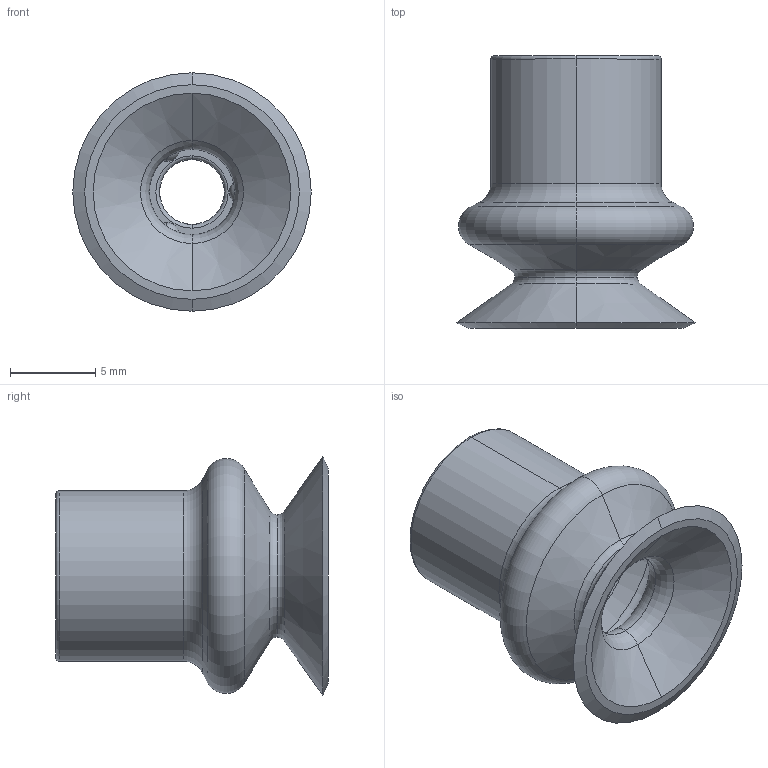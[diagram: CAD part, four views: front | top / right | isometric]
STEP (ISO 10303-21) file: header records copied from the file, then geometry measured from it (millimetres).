
FILE_DESCRIPTION (( 'STEP AP203' ), '1' );
FILE_NAME ('1_14--A.STEP', '2017-04-10T14:38:43', ( '' ), ( '' ), 'SwSTEP 2.0', 'SolidWorks 2016', '' );
FILE_SCHEMA (( 'CONFIG_CONTROL_DESIGN' ));
Length unit declared in the file: millimetre
Products named in the file (1): 1_14--A
Bounding box: 14 x 16 x 14 mm (x, y, z)
Volume: 918.7 mm3; surface area: 1242 mm2
Topology: 1 solids, 1 shells, 55 faces, 122 edges, 69 vertices
Faces by surface type: torus 22, cone 18, sphere 6, plane 5, cylinder 4
Entity records: 1525 total; most frequent: DIRECTION 310, CARTESIAN_POINT 229, ORIENTED_EDGE 220, AXIS2_PLACEMENT_3D 144, EDGE_CURVE 110, CIRCLE 88, VERTEX_POINT 63, EDGE_LOOP 63
